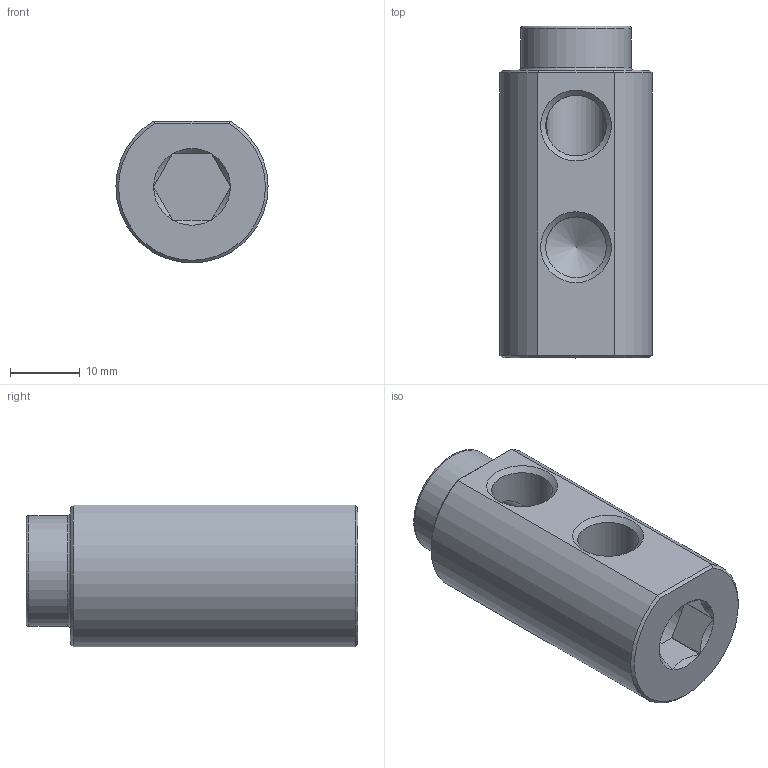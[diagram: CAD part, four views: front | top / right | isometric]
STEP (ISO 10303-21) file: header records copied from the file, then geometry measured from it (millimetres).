
FILE_DESCRIPTION(/* description */ (''),/* implementation_level */ '2;1');
FILE_NAME(/* name */ 'C:/Users/drich/Desktop/E186H v2.step',/* time_stamp */ '2019-11-18T13:46:30-06:00',/* author */ (''),/* organization */ (''),/* preprocessor_version */ 'ST-DEVELOPER v18',/* originating_system */ 'Autodesk Translation Framework v8.12.0.6',/* authorisation */ '');
FILE_SCHEMA (('AUTOMOTIVE_DESIGN { 1 0 10303 214 3 1 1 }'));
Length unit declared in the file: inch
Products named in the file (2): E186H; E186H_1
Assembly tree (1 placements, depth 2):
  E186H
    E186H_1
Bounding box: 21.84 x 47.62 x 20.37 mm (x, y, z)
Volume: 12852.2 mm3; surface area: 5173.7 mm2
Topology: 1 solids, 1 shells, 44 faces, 104 edges, 65 vertices
Faces by surface type: cone 15, plane 14, cylinder 13, torus 2
Full cylindrical faces by diameter (mm): 5.474 x1, 8.707 x3, 11.176 x1, 15.875 x1
Entity records: 1406 total; most frequent: CARTESIAN_POINT 318, DIRECTION 233, ORIENTED_EDGE 206, EDGE_CURVE 103, AXIS2_PLACEMENT_3D 99, VERTEX_POINT 65, EDGE_LOOP 52, CIRCLE 50
